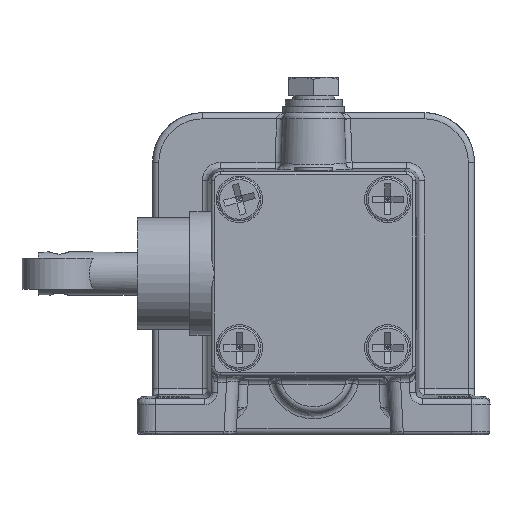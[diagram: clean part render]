
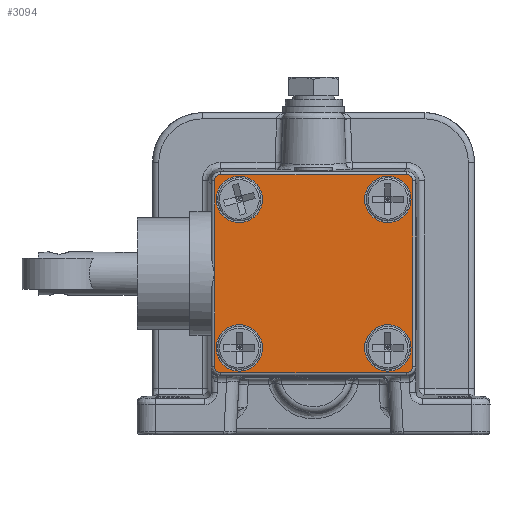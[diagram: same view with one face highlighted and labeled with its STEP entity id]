
A CAD part, left-side view. The second image highlights one B-rep face of the part: STEP entity #3094.
In plain terms, the highlighted planar face has unit normal (-1, 0, 0).
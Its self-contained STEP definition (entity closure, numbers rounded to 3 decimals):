
#1984=CARTESIAN_POINT('',(-76.253,16.,0.));
#1985=VERTEX_POINT('',#1984);
#2595=CARTESIAN_POINT('',(-76.253,-16.,-15.0));
#2596=VERTEX_POINT('',#2595);
#2605=CARTESIAN_POINT('',(-76.253,-16.,15.));
#2606=VERTEX_POINT('',#2605);
#2614=CARTESIAN_POINT('',(-76.253,-16.,-15.0));
#2615=DIRECTION('',(0.0,0.0,1.0));
#2616=VECTOR('',#2615,30.);
#2617=LINE('',#2614,#2616);
#2618=EDGE_CURVE('',#2596,#2606,#2617,.T.);
#2628=CARTESIAN_POINT('',(-76.253,-15.,-16.));
#2629=VERTEX_POINT('',#2628);
#2639=CARTESIAN_POINT('',(-76.253,-15.,-15.0));
#2640=DIRECTION('',(-1.0,0.0,0.0));
#2641=DIRECTION('',(0.0,0.0,-1.0));
#2642=AXIS2_PLACEMENT_3D('',#2639,#2640,#2641);
#2643=CIRCLE('',#2642,1.);
#2644=EDGE_CURVE('',#2629,#2596,#2643,.T.);
#2654=CARTESIAN_POINT('',(-76.253,15.,-16.));
#2655=VERTEX_POINT('',#2654);
#2665=CARTESIAN_POINT('',(-76.253,15.,-16.));
#2666=DIRECTION('',(0.0,-1.0,0.0));
#2667=VECTOR('',#2666,30.);
#2668=LINE('',#2665,#2667);
#2669=EDGE_CURVE('',#2655,#2629,#2668,.T.);
#2679=CARTESIAN_POINT('',(-76.253,16.,-15.));
#2680=VERTEX_POINT('',#2679);
#2698=CARTESIAN_POINT('',(-76.253,15.,-15.));
#2699=DIRECTION('',(-1.0,0.0,0.0));
#2700=DIRECTION('',(0.0,1.0,0.0));
#2701=AXIS2_PLACEMENT_3D('',#2698,#2699,#2700);
#2702=CIRCLE('',#2701,1.);
#2703=EDGE_CURVE('',#2680,#2655,#2702,.T.);
#2766=CARTESIAN_POINT('',(-76.253,16.,15.));
#2767=VERTEX_POINT('',#2766);
#2777=CARTESIAN_POINT('',(-76.253,16.,15.));
#2778=DIRECTION('',(0.0,0.0,-1.0));
#2779=VECTOR('',#2778,15.);
#2780=LINE('',#2777,#2779);
#2781=EDGE_CURVE('',#2767,#1985,#2780,.T.);
#2792=CARTESIAN_POINT('',(-76.253,16.,0.));
#2793=DIRECTION('',(0.0,0.0,-1.0));
#2794=VECTOR('',#2793,15.);
#2795=LINE('',#2792,#2794);
#2796=EDGE_CURVE('',#1985,#2680,#2795,.T.);
#2808=CARTESIAN_POINT('',(-76.253,15.,16.));
#2809=VERTEX_POINT('',#2808);
#2819=CARTESIAN_POINT('',(-76.253,15.,15.));
#2820=DIRECTION('',(-1.0,0.0,0.0));
#2821=DIRECTION('',(0.0,0.0,1.0));
#2822=AXIS2_PLACEMENT_3D('',#2819,#2820,#2821);
#2823=CIRCLE('',#2822,1.);
#2824=EDGE_CURVE('',#2809,#2767,#2823,.T.);
#2834=CARTESIAN_POINT('',(-76.253,-15.,16.));
#2835=VERTEX_POINT('',#2834);
#2845=CARTESIAN_POINT('',(-76.253,-15.,16.0));
#2846=DIRECTION('',(0.0,1.0,0.0));
#2847=VECTOR('',#2846,30.);
#2848=LINE('',#2845,#2847);
#2849=EDGE_CURVE('',#2835,#2809,#2848,.T.);
#2868=CARTESIAN_POINT('',(-76.253,-15.,15.0));
#2869=DIRECTION('',(-1.0,0.0,0.0));
#2870=DIRECTION('',(0.0,-1.0,0.0));
#2871=AXIS2_PLACEMENT_3D('',#2868,#2869,#2870);
#2872=CIRCLE('',#2871,1.);
#2873=EDGE_CURVE('',#2606,#2835,#2872,.T.);
#2895=CARTESIAN_POINT('',(-76.253,12.,8.25));
#2896=VERTEX_POINT('',#2895);
#2897=CARTESIAN_POINT('',(-76.253,12.,12.));
#2898=DIRECTION('',(1.0,0.0,0.0));
#2899=DIRECTION('',(0.0,0.0,-1.0));
#2900=AXIS2_PLACEMENT_3D('',#2897,#2898,#2899);
#2901=CIRCLE('',#2900,3.75);
#2902=EDGE_CURVE('',#2896,#2896,#2901,.T.);
#2935=CARTESIAN_POINT('',(-76.253,12.,-15.75));
#2936=VERTEX_POINT('',#2935);
#2937=CARTESIAN_POINT('',(-76.253,12.,-12.));
#2938=DIRECTION('',(1.0,0.0,0.0));
#2939=DIRECTION('',(0.0,0.0,-1.0));
#2940=AXIS2_PLACEMENT_3D('',#2937,#2938,#2939);
#2941=CIRCLE('',#2940,3.75);
#2942=EDGE_CURVE('',#2936,#2936,#2941,.T.);
#2983=CARTESIAN_POINT('',(-76.253,-8.25,12.));
#2984=VERTEX_POINT('',#2983);
#2985=CARTESIAN_POINT('',(-76.253,-12.,12.));
#2986=DIRECTION('',(-1.0,0.0,0.0));
#2987=DIRECTION('',(0.0,-1.0,0.0));
#2988=AXIS2_PLACEMENT_3D('',#2985,#2986,#2987);
#2989=CIRCLE('',#2988,3.75);
#2990=EDGE_CURVE('',#2984,#2984,#2989,.T.);
#3051=CARTESIAN_POINT('',(-76.253,-15.75,-12.));
#3052=VERTEX_POINT('',#3051);
#3053=CARTESIAN_POINT('',(-76.253,-12.,-12.));
#3054=DIRECTION('',(-1.0,0.0,0.0));
#3055=DIRECTION('',(0.0,1.0,0.0));
#3056=AXIS2_PLACEMENT_3D('',#3053,#3054,#3055);
#3057=CIRCLE('',#3056,3.75);
#3058=EDGE_CURVE('',#3052,#3052,#3057,.T.);
#3066=CARTESIAN_POINT('',(-76.253,0.,0.));
#3067=DIRECTION('',(1.0,0.0,0.0));
#3068=DIRECTION('',(0.0,0.0,-1.0));
#3069=AXIS2_PLACEMENT_3D('',#3066,#3067,#3068);
#3070=PLANE('',#3069);
#3071=ORIENTED_EDGE('',*,*,#2703,.T.);
#3072=ORIENTED_EDGE('',*,*,#2669,.T.);
#3073=ORIENTED_EDGE('',*,*,#2644,.T.);
#3074=ORIENTED_EDGE('',*,*,#2618,.T.);
#3075=ORIENTED_EDGE('',*,*,#2873,.T.);
#3076=ORIENTED_EDGE('',*,*,#2849,.T.);
#3077=ORIENTED_EDGE('',*,*,#2824,.T.);
#3078=ORIENTED_EDGE('',*,*,#2781,.T.);
#3079=ORIENTED_EDGE('',*,*,#2796,.T.);
#3080=EDGE_LOOP('',(#3071,#3072,#3073,#3074,#3075,#3076,#3077,#3078,#3079));
#3081=FACE_OUTER_BOUND('',#3080,.T.);
#3082=ORIENTED_EDGE('',*,*,#2990,.F.);
#3083=EDGE_LOOP('',(#3082));
#3084=FACE_BOUND('',#3083,.T.);
#3085=ORIENTED_EDGE('',*,*,#2942,.T.);
#3086=EDGE_LOOP('',(#3085));
#3087=FACE_BOUND('',#3086,.T.);
#3088=ORIENTED_EDGE('',*,*,#2902,.T.);
#3089=EDGE_LOOP('',(#3088));
#3090=FACE_BOUND('',#3089,.T.);
#3091=ORIENTED_EDGE('',*,*,#3058,.F.);
#3092=EDGE_LOOP('',(#3091));
#3093=FACE_BOUND('',#3092,.T.);
#3094=ADVANCED_FACE('',(#3081,#3084,#3087,#3090,#3093),#3070,.F.);
